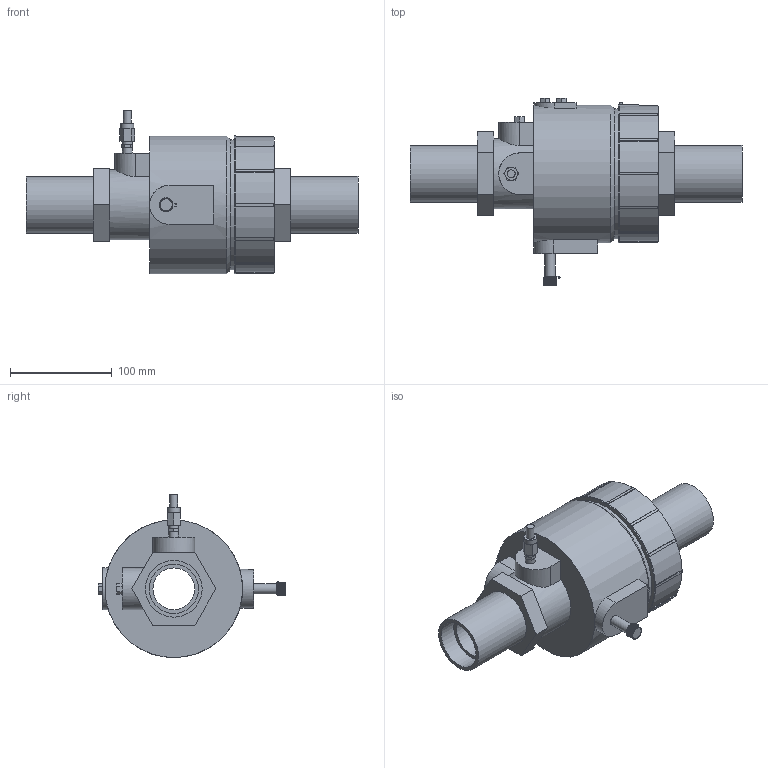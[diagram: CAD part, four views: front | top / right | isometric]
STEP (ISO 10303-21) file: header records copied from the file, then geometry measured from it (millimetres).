
FILE_DESCRIPTION(/* description */ ('VIC CONTROLLER DIFFERENTIAL PRESSURE TA SERIES 7DA (FPT)','CAx-IF Rec.Pracs.---Representation and Presentation of Product Manufacturing Information (PMI)---4.0---2014-10-13'),/* implementation_level */ '2;1');
FILE_NAME(/* name */ 'C:\Users\Vjadhav\Desktop\CAD for Inventor\1\7DA\STEP\Victaulic_IPS_Controller Differential Pressure_TA Series 7DA (FPT)\Victaulic_IPS_Controller Differential Pressure_TA Series 7DA (FPT)_1.5 (40).stp',/* time_stamp */ '2021-08-30T15:53:27+05:00',/* author */ ('Vjadhav'),/* organization */ ('Victaulic'),/* preprocessor_version */ 'ST-DEVELOPER v17.2',/* originating_system */ 'Autodesk Inventor 2019',/* authorisation */ '');
FILE_SCHEMA (('AP242_MANAGED_MODEL_BASED_3D_ENGINEERING_MIM_LF { 1 0 10303 442 1 1 4 }'));
Length unit declared in the file: inch
Products named in the file (1): 7DA-01.5
Bounding box: 325.88 x 184.28 x 160.26 mm (x, y, z)
Volume: 1895921.9 mm3; surface area: 193716.7 mm2
Topology: 1 solids, 1 shells, 371 faces, 1039 edges, 692 vertices
Faces by surface type: plane 201, cylinder 122, torus 35, cone 13
Full cylindrical faces by diameter (mm): 2.54 x1, 7.62 x1, 9.525 x2, 10.16 x2, 12.7 x1, 40.894 x1, 48.26 x2, 55.626 x2, 68.95 x2, 83.185 x1, 85.725 x1, 127.412 x1, 130.048 x1, 135.032 x1
Entity records: 13152 total; most frequent: CARTESIAN_POINT 2932, ORIENTED_EDGE 2078, DIRECTION 2042, EDGE_CURVE 1039, AXIS2_PLACEMENT_3D 718, VERTEX_POINT 692, LINE 606, VECTOR 606
